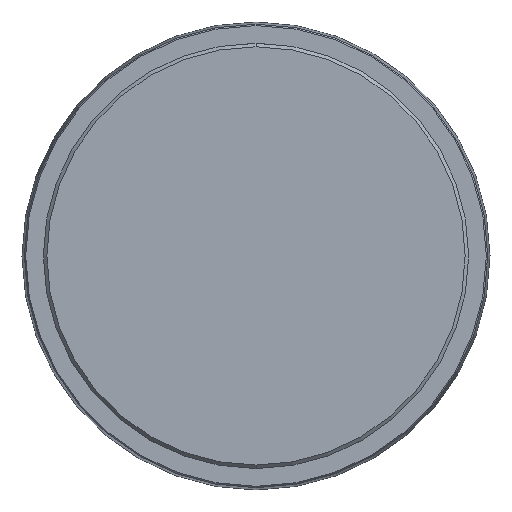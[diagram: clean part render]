
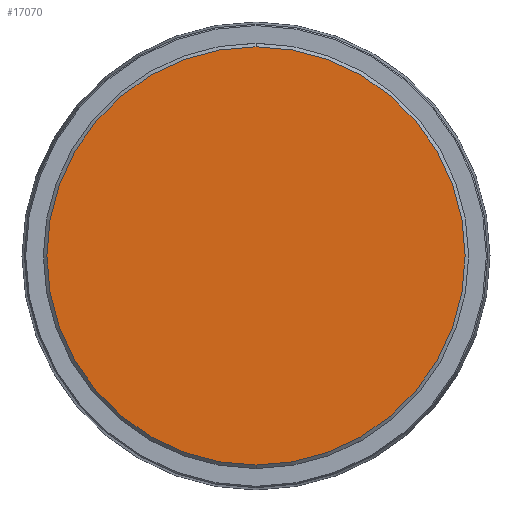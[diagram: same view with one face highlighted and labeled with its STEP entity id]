
A CAD part, top view. The second image highlights one B-rep face of the part: STEP entity #17070.
In plain terms, the highlighted planar face has unit normal (0, 0, 1) as drawn and (0, 1, 0) by its records, which use the part's own axes.
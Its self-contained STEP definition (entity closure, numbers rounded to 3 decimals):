
#9260=CARTESIAN_POINT('',(0.,4.148,17.745));
#9270=VERTEX_POINT('',#9260);
#9360=CARTESIAN_POINT('',(0.,4.148,-17.745));
#9370=VERTEX_POINT('',#9360);
#9400=CARTESIAN_POINT('',(0.,4.148,0.));
#9410=DIRECTION('',(0.,-1.,0.));
#9420=DIRECTION('',(0.,0.,1.));
#9430=AXIS2_PLACEMENT_3D('',#9400,#9410,#9420);
#9440=CIRCLE('',#9430,17.745);
#9450=EDGE_CURVE('',#9270,#9370,#9440,.T.);
#16970=CARTESIAN_POINT('',(0.,4.148,8.872));
#16980=DIRECTION('',(0.,1.,0.));
#16990=DIRECTION('',(0.,0.,1.));
#17000=AXIS2_PLACEMENT_3D('',#16970,#16980,#16990);
#17010=PLANE('',#17000);
#17020=EDGE_CURVE('',#9370,#9270,#9440,.T.);
#17030=ORIENTED_EDGE('',*,*,#17020,.F.);
#17040=ORIENTED_EDGE('',*,*,#9450,.F.);
#17050=EDGE_LOOP('',(#17040,#17030));
#17060=FACE_OUTER_BOUND('',#17050,.T.);
#17070=ADVANCED_FACE('',(#17060),#17010,.T.);
